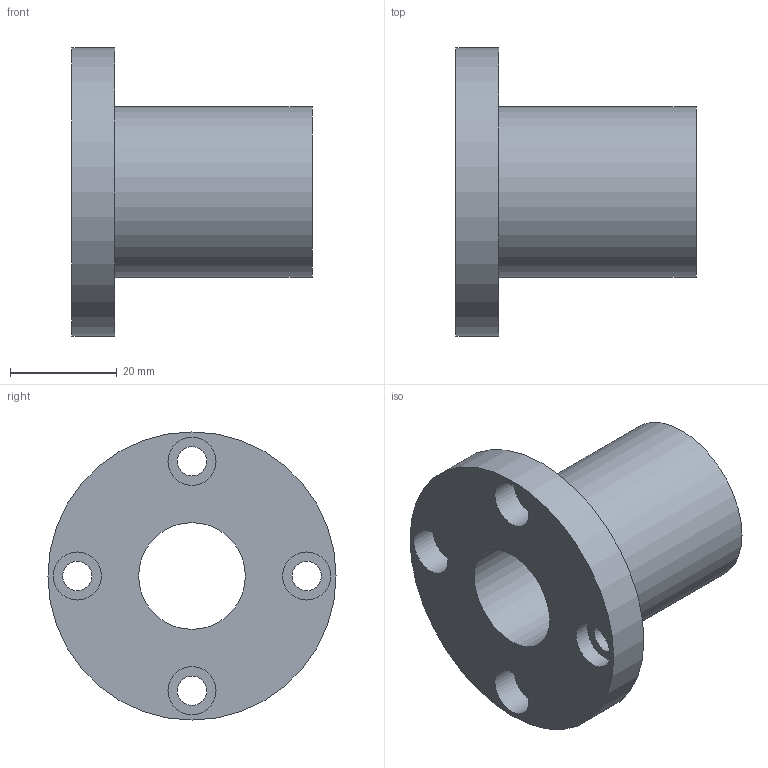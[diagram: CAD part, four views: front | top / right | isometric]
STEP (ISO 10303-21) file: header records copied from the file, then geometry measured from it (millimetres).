
FILE_DESCRIPTION( ( 'STEP AP203' ), '1' );
FILE_NAME( 'p:/temp/worker_4/temp/exporttempdir_3320_1507_vtt2F/format_0/LMEF20UU.stp', '2020-05-07T03:19:54', ( 'License CC BY-ND 4.0' ), ( 'CADENAS' ), ' ', 'PARTsolutions', ' ' );
FILE_SCHEMA( ( 'CONFIG_CONTROL_DESIGN' ) );
Length unit declared in the file: millimetre
Products named in the file (1): _LMEF20UU
Bounding box: 45 x 54 x 54 mm (x, y, z)
Volume: 32448.1 mm3; surface area: 12421.5 mm2
Topology: 1 solids, 1 shells, 18 faces, 34 edges, 23 vertices
Faces by surface type: cylinder 11, plane 7
Full cylindrical faces by diameter (mm): 5.5 x4, 9 x4, 20 x1, 32 x1, 54 x1
Entity records: 468 total; most frequent: DIRECTION 82, CARTESIAN_POINT 63, EDGE_LOOP 44, ORIENTED_EDGE 44, AXIS2_PLACEMENT_3D 41, FACE_OUTER_BOUND 29, EDGE_CURVE 22, VERTEX_POINT 22
